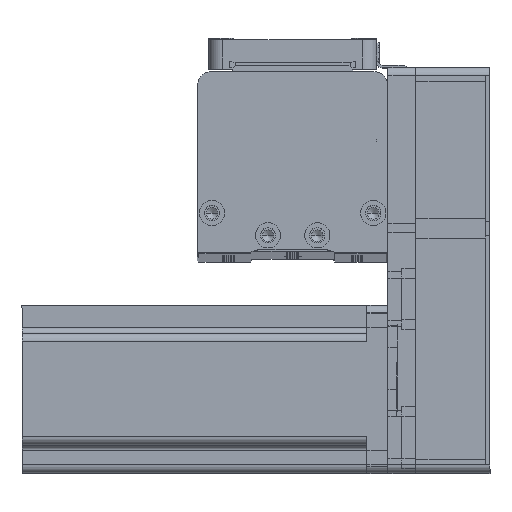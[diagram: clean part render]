
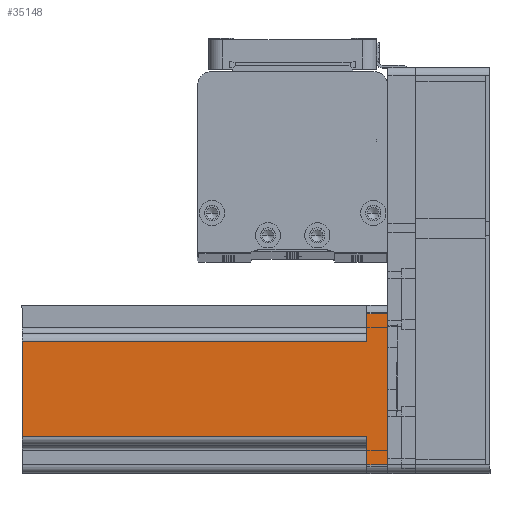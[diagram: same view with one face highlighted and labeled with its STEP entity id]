
A CAD part, top view. The second image highlights one B-rep face of the part: STEP entity #35148.
In plain terms, the highlighted planar face has unit normal (0, 0, 1) as drawn and (0, 1, 0) by its records, which use the part's own axes.
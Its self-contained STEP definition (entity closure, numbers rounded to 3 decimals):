
#403 = CARTESIAN_POINT ( 'NONE',  ( -27., 30., 130.7 ) ) ;
#920 = DIRECTION ( 'NONE',  ( 0., -1., 0. ) ) ;
#1492 = CARTESIAN_POINT ( 'NONE',  ( 27., 30., 130.7 ) ) ;
#2001 = CARTESIAN_POINT ( 'NONE',  ( -20., 30., 7.5 ) ) ;
#2919 = FACE_OUTER_BOUND ( 'NONE', #9200, .T. ) ;
#4045 = EDGE_CURVE ( 'NONE', #26229, #36659, #24906, .T. ) ;
#4096 = LINE ( 'NONE', #20555, #25221 ) ;
#4313 = CARTESIAN_POINT ( 'NONE',  ( 27., 30., 7.5 ) ) ;
#5266 = VECTOR ( 'NONE', #29923, 1000. ) ;
#5520 = EDGE_CURVE ( 'NONE', #25563, #44957, #8790, .T. ) ;
#5601 = EDGE_CURVE ( 'NONE', #36659, #52135, #24539, .T. ) ;
#7015 = AXIS2_PLACEMENT_3D ( 'NONE', #26183, #920, #30405 ) ;
#8790 = LINE ( 'NONE', #1492, #53571 ) ;
#9190 = CARTESIAN_POINT ( 'NONE',  ( 20., 30., 7.5 ) ) ;
#9200 = EDGE_LOOP ( 'NONE', ( #12128, #15410, #15128, #30250, #12088, #22798, #31128, #20816 ) ) ;
#9261 = PLANE ( 'NONE',  #7015 ) ;
#9352 = VECTOR ( 'NONE', #34216, 1000. ) ;
#9361 = CARTESIAN_POINT ( 'NONE',  ( -17., 30., 130.7 ) ) ;
#9633 = EDGE_CURVE ( 'NONE', #54519, #47934, #4096, .T. ) ;
#10404 = EDGE_CURVE ( 'NONE', #25563, #47934, #21752, .T. ) ;
#12088 = ORIENTED_EDGE ( 'NONE', *, *, #10404, .F. ) ;
#12128 = ORIENTED_EDGE ( 'NONE', *, *, #4045, .T. ) ;
#13352 = VECTOR ( 'NONE', #39867, 1000. ) ;
#15128 = ORIENTED_EDGE ( 'NONE', *, *, #52001, .F. ) ;
#15283 = VECTOR ( 'NONE', #41377, 1000. ) ;
#15410 = ORIENTED_EDGE ( 'NONE', *, *, #5601, .T. ) ;
#16050 = CARTESIAN_POINT ( 'NONE',  ( -17., 30., 7.5 ) ) ;
#16441 = CARTESIAN_POINT ( 'NONE',  ( 17., 30., 130.7 ) ) ;
#20555 = CARTESIAN_POINT ( 'NONE',  ( 17., 30., 130.7 ) ) ;
#20816 = ORIENTED_EDGE ( 'NONE', *, *, #52584, .T. ) ;
#21752 = LINE ( 'NONE', #9190, #32991 ) ;
#22392 = CARTESIAN_POINT ( 'NONE',  ( 27., 30., 0. ) ) ;
#22798 = ORIENTED_EDGE ( 'NONE', *, *, #5520, .T. ) ;
#22865 = CARTESIAN_POINT ( 'NONE',  ( -17., 30., 130.7 ) ) ;
#24539 = LINE ( 'NONE', #22865, #13352 ) ;
#24906 = LINE ( 'NONE', #2001, #34801 ) ;
#25221 = VECTOR ( 'NONE', #33308, 1000. ) ;
#25563 = VERTEX_POINT ( 'NONE', #4313 ) ;
#26183 = CARTESIAN_POINT ( 'NONE',  ( 30., 30., 130.7 ) ) ;
#26229 = VERTEX_POINT ( 'NONE', #46804 ) ;
#27295 = DIRECTION ( 'NONE',  ( 1., 0., 0. ) ) ;
#27707 = LINE ( 'NONE', #403, #5266 ) ;
#29923 = DIRECTION ( 'NONE',  ( 0., 0., 1. ) ) ;
#29976 = CARTESIAN_POINT ( 'NONE',  ( 30., 30., 0. ) ) ;
#30250 = ORIENTED_EDGE ( 'NONE', *, *, #9633, .T. ) ;
#30405 = DIRECTION ( 'NONE',  ( 1., 0., 0. ) ) ;
#31009 = DIRECTION ( 'NONE',  ( 0., 0., -1. ) ) ;
#31128 = ORIENTED_EDGE ( 'NONE', *, *, #50307, .T. ) ;
#32991 = VECTOR ( 'NONE', #51176, 1000. ) ;
#33069 = LINE ( 'NONE', #29976, #9352 ) ;
#33308 = DIRECTION ( 'NONE',  ( 0., 0., -1. ) ) ;
#34216 = DIRECTION ( 'NONE',  ( -1., 0., 0. ) ) ;
#34801 = VECTOR ( 'NONE', #27295, 1000. ) ;
#35148 = ADVANCED_FACE ( 'NONE', ( #2919 ), #9261, .F. ) ;
#36659 = VERTEX_POINT ( 'NONE', #16050 ) ;
#37056 = CARTESIAN_POINT ( 'NONE',  ( 17., 30., 7.5 ) ) ;
#38101 = CARTESIAN_POINT ( 'NONE',  ( 30., 30., 130.7 ) ) ;
#39053 = LINE ( 'NONE', #38101, #15283 ) ;
#39867 = DIRECTION ( 'NONE',  ( 0., 0., 1. ) ) ;
#41377 = DIRECTION ( 'NONE',  ( -1., 0., 0. ) ) ;
#44957 = VERTEX_POINT ( 'NONE', #22392 ) ;
#46804 = CARTESIAN_POINT ( 'NONE',  ( -27., 30., 7.5 ) ) ;
#46913 = CARTESIAN_POINT ( 'NONE',  ( -27., 30., 0. ) ) ;
#47934 = VERTEX_POINT ( 'NONE', #37056 ) ;
#50307 = EDGE_CURVE ( 'NONE', #44957, #50319, #33069, .T. ) ;
#50319 = VERTEX_POINT ( 'NONE', #46913 ) ;
#51176 = DIRECTION ( 'NONE',  ( -1., 0., 0. ) ) ;
#52001 = EDGE_CURVE ( 'NONE', #54519, #52135, #39053, .T. ) ;
#52135 = VERTEX_POINT ( 'NONE', #9361 ) ;
#52584 = EDGE_CURVE ( 'NONE', #50319, #26229, #27707, .T. ) ;
#53571 = VECTOR ( 'NONE', #31009, 1000. ) ;
#54519 = VERTEX_POINT ( 'NONE', #16441 ) ;
